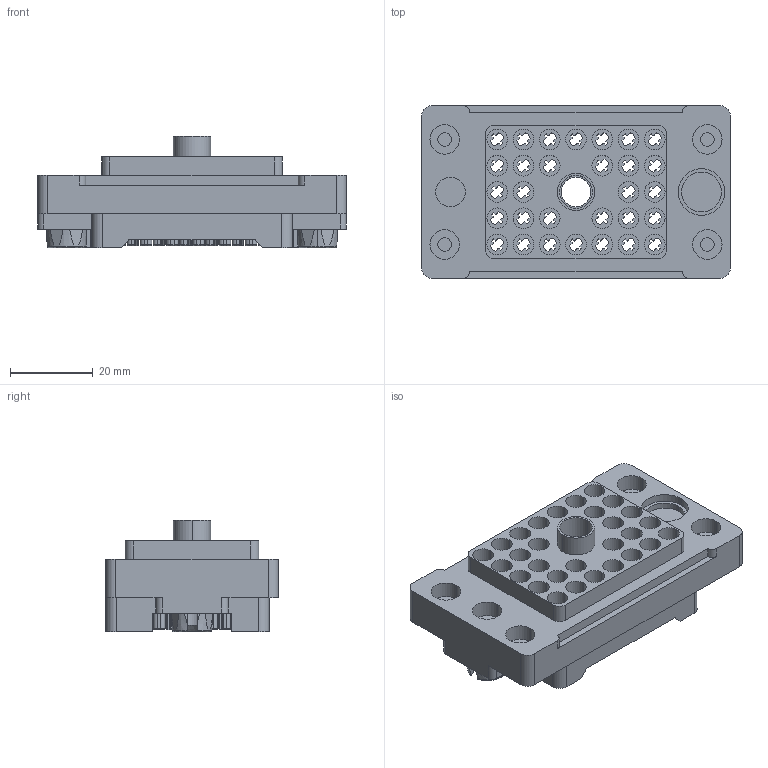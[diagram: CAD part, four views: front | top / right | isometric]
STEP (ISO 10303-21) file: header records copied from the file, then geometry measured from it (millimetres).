
FILE_DESCRIPTION (( 'STEP AP214' ), '1' );
FILE_NAME ('00_8027_030_000_004.STEP', '2024-11-21T02:21:47', ( '' ), ( '' ), 'SwSTEP 2.0', 'SolidWorks 2023', '' );
FILE_SCHEMA (( 'AUTOMOTIVE_DESIGN' ));
Length unit declared in the file: millimetre
Products named in the file (1): 00_8027_030_000_004
Bounding box: 74.6 x 41.7 x 27 mm (x, y, z)
Volume: 34048.7 mm3; surface area: 23476.8 mm2
Topology: 1 solids, 1 shells, 2319 faces, 5844 edges, 3573 vertices
Faces by surface type: cylinder 1022, plane 668, torus 600, cone 23, bspline 6
Entity records: 72406 total; most frequent: CARTESIAN_POINT 14580, DIRECTION 12498, ORIENTED_EDGE 11688, EDGE_CURVE 5844, AXIS2_PLACEMENT_3D 4881, VERTEX_POINT 3573, VECTOR 2736, LINE 2736
